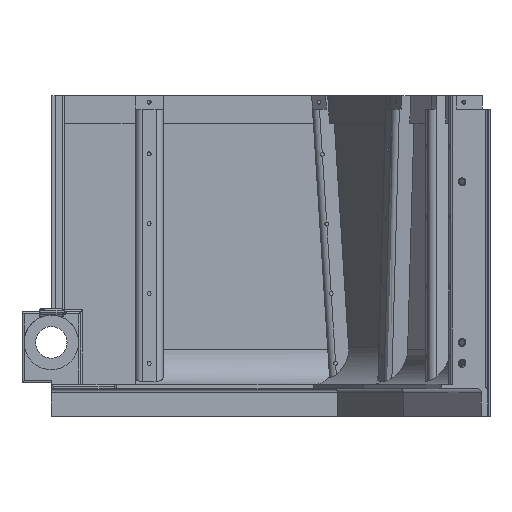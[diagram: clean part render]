
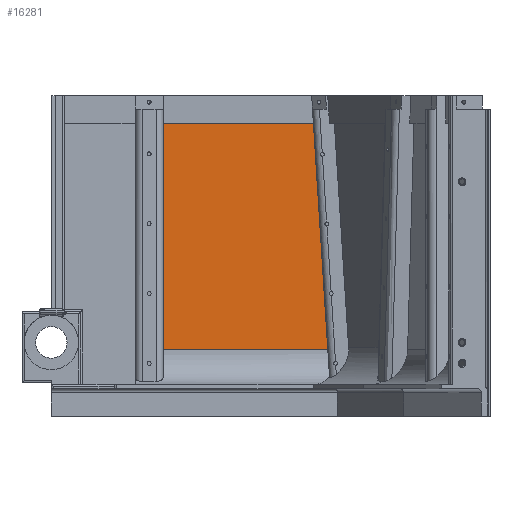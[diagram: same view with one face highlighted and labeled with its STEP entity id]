
A CAD part, front view. The second image highlights one B-rep face of the part: STEP entity #16281.
In plain terms, the highlighted planar face has unit normal (0, -1, 0).
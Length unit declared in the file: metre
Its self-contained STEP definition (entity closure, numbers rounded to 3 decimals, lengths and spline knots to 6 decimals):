
#5479=ORIENTED_EDGE('',*,*,#5652,.F.);
#5480=ORIENTED_EDGE('',*,*,#7809,.T.);
#5481=ORIENTED_EDGE('',*,*,#5697,.T.);
#5482=ORIENTED_EDGE('',*,*,#7736,.T.);
#5652=EDGE_CURVE('',#7854,#7855,#9396,.T.);
#5697=EDGE_CURVE('',#7898,#7897,#9429,.T.);
#7736=EDGE_CURVE('',#7897,#7855,#10688,.T.);
#7809=EDGE_CURVE('',#7854,#7898,#10746,.T.);
#7854=VERTEX_POINT('',#22775);
#7855=VERTEX_POINT('',#22777);
#7897=VERTEX_POINT('',#22868);
#7898=VERTEX_POINT('',#22870);
#9396=LINE('',#22776,#10781);
#9429=LINE('',#22869,#10814);
#10688=LINE('',#28726,#12073);
#10746=LINE('',#29140,#12131);
#10781=VECTOR('',#18036,1.);
#10814=VECTOR('',#18103,1.);
#12073=VECTOR('',#22450,1.);
#12131=VECTOR('',#22642,1.);
#13412=EDGE_LOOP('',(#5479,#5480,#5481,#5482));
#14715=FACE_BOUND('',#13412,.T.);
#15319=PLANE('',#17954);
#16281=ADVANCED_FACE('',(#14715),#15319,.F.);
#17954=AXIS2_PLACEMENT_3D('',#29139,#22640,#22641);
#18036=DIRECTION('',(0.063,0.,-0.998));
#18103=DIRECTION('',(0.,0.,-1.));
#22450=DIRECTION('',(1.,0.,0.));
#22640=DIRECTION('',(0.,1.,0.));
#22641=DIRECTION('',(-1.,0.,0.));
#22642=DIRECTION('',(-1.,0.,0.));
#22775=CARTESIAN_POINT('',(0.187566,0.405,0.19));
#22776=CARTESIAN_POINT('',(0.17258,0.405,0.425951));
#22777=CARTESIAN_POINT('',(0.197856,0.405,0.028));
#22868=CARTESIAN_POINT('',(0.08,0.405,0.028));
#22869=CARTESIAN_POINT('',(0.08,0.405,0.425002));
#22870=CARTESIAN_POINT('',(0.08,0.405,0.19));
#28726=CARTESIAN_POINT('',(0.199444,0.405,0.028));
#29139=CARTESIAN_POINT('',(0.0025,0.405,0.612147));
#29140=CARTESIAN_POINT('',(0.133783,0.405,0.19));
